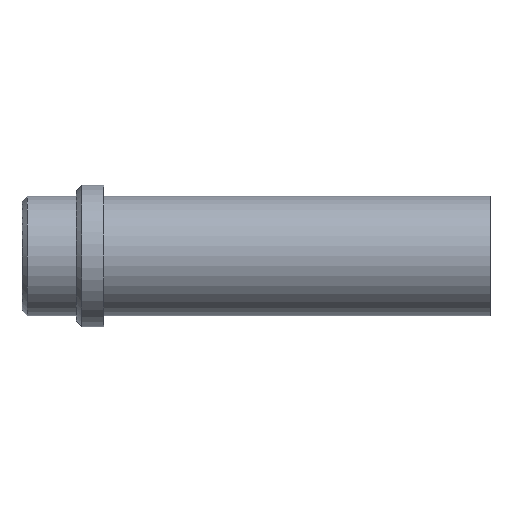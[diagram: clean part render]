
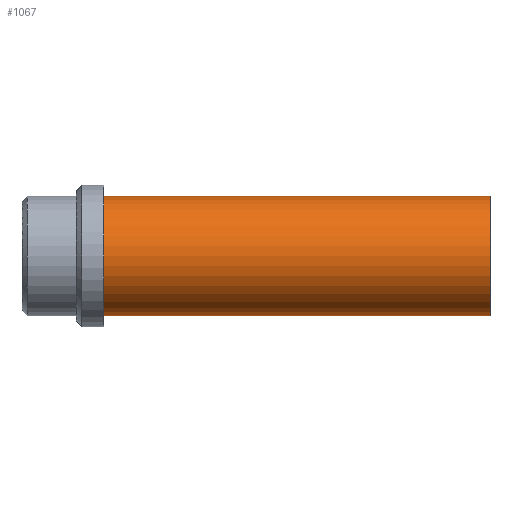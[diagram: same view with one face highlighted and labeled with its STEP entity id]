
A CAD part, front view. The second image highlights one B-rep face of the part: STEP entity #1067.
In plain terms, the highlighted cylindrical face has radius 11 mm (diameter 22 mm), a partial arc.
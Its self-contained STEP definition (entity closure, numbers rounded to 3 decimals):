
#953=CARTESIAN_POINT('Vertex',(0.,0.,-11.)) ;
#958=CARTESIAN_POINT('Axis2P3D Location',(0.,0.,0.)) ;
#962=CARTESIAN_POINT('Vertex',(0.,-11.,0.)) ;
#965=CARTESIAN_POINT('Axis2P3D Location',(0.,0.,0.)) ;
#969=CARTESIAN_POINT('Vertex',(0.,0.,11.)) ;
#995=CARTESIAN_POINT('Vertex',(71.,0.,11.)) ;
#998=CARTESIAN_POINT('Axis2P3D Location',(71.,0.,0.)) ;
#1002=CARTESIAN_POINT('Vertex',(71.,-11.,0.)) ;
#1005=CARTESIAN_POINT('Axis2P3D Location',(71.,0.,0.)) ;
#1009=CARTESIAN_POINT('Vertex',(71.,0.,-11.)) ;
#1035=CARTESIAN_POINT('Line Origine',(71.,0.,11.)) ;
#1040=CARTESIAN_POINT('Line Origine',(71.,0.,-11.)) ;
#1054=CARTESIAN_POINT('Axis2P3D Location',(71.,0.,0.)) ;
#959=DIRECTION('Axis2P3D Direction',(1.,0.,-0.)) ;
#966=DIRECTION('Axis2P3D Direction',(1.,0.,-0.)) ;
#999=DIRECTION('Axis2P3D Direction',(1.,0.,-0.)) ;
#1006=DIRECTION('Axis2P3D Direction',(1.,0.,-0.)) ;
#1036=DIRECTION('Vector Direction',(-1.,0.,0.)) ;
#1041=DIRECTION('Vector Direction',(-1.,0.,0.)) ;
#1055=DIRECTION('Axis2P3D Direction',(-1.,-0.,-0.)) ;
#1056=DIRECTION('Axis2P3D XDirection',(0.,0.,-1.)) ;
#960=AXIS2_PLACEMENT_3D('Circle Axis2P3D',#958,#959,$) ;
#967=AXIS2_PLACEMENT_3D('Circle Axis2P3D',#965,#966,$) ;
#1000=AXIS2_PLACEMENT_3D('Circle Axis2P3D',#998,#999,$) ;
#1007=AXIS2_PLACEMENT_3D('Circle Axis2P3D',#1005,#1006,$) ;
#1057=AXIS2_PLACEMENT_3D('Cylinder Axis2P3D',#1054,#1055,#1056) ;
#1060=ORIENTED_EDGE('',*,*,#1044,.T.) ;
#1061=ORIENTED_EDGE('',*,*,#1011,.F.) ;
#1062=ORIENTED_EDGE('',*,*,#1004,.F.) ;
#1063=ORIENTED_EDGE('',*,*,#1039,.T.) ;
#1064=ORIENTED_EDGE('',*,*,#971,.T.) ;
#1065=ORIENTED_EDGE('',*,*,#964,.T.) ;
#1037=VECTOR('Line Direction',#1036,1.) ;
#1042=VECTOR('Line Direction',#1041,1.) ;
#1067=ADVANCED_FACE('358-16X86',(#1066),#1058,.T.) ;
#961=CIRCLE('generated circle',#960,11.) ;
#968=CIRCLE('generated circle',#967,11.) ;
#1001=CIRCLE('generated circle',#1000,11.) ;
#1008=CIRCLE('generated circle',#1007,11.) ;
#1058=CYLINDRICAL_SURFACE('generated cylinder',#1057,11.) ;
#964=EDGE_CURVE('',#963,#954,#961,.T.) ;
#971=EDGE_CURVE('',#970,#963,#968,.T.) ;
#1004=EDGE_CURVE('',#996,#1003,#1001,.T.) ;
#1011=EDGE_CURVE('',#1003,#1010,#1008,.T.) ;
#1039=EDGE_CURVE('',#996,#970,#1038,.T.) ;
#1044=EDGE_CURVE('',#954,#1010,#1043,.F.) ;
#1059=EDGE_LOOP('',(#1060,#1061,#1062,#1063,#1064,#1065)) ;
#1066=FACE_OUTER_BOUND('',#1059,.T.) ;
#1038=LINE('Line',#1035,#1037) ;
#1043=LINE('Line',#1040,#1042) ;
#954=VERTEX_POINT('',#953) ;
#963=VERTEX_POINT('',#962) ;
#970=VERTEX_POINT('',#969) ;
#996=VERTEX_POINT('',#995) ;
#1003=VERTEX_POINT('',#1002) ;
#1010=VERTEX_POINT('',#1009) ;
